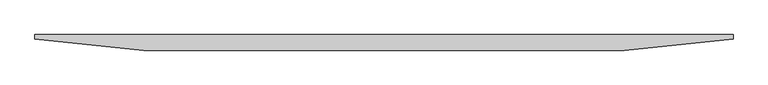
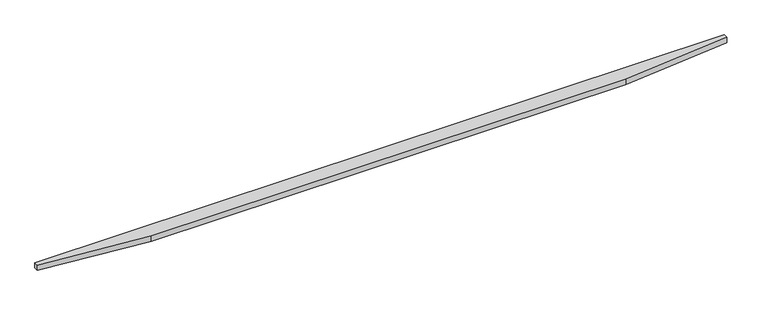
"""IFC4 building model written with IfcOpenShell, lengths in millimetres: proxy geometry, FOUNDATION^TABLE 5_60x180 BASE KEELS-KEEL 1."""

from ifc_helpers import new_model, si_unit, frame, origin, place, context, project, spatial, polyline, outline, extrude, source, transform, mapped, element, save


def generic_models_ef97d589(model_context):
    return source(origin(), model_context, "Body", "SweptSolid", [
        extrude(outline(polyline([(4267.2, -25.4), (3649.6706832, -88.9), (922.3293168, -88.9), (304.8, -25.4), (304.8, 0.0), (4267.2, 0.0), (4267.2, -25.4)])), frame((0.0, 0.0, -488.95), z_axis=(0.0, 0.0, 1.0), x_axis=(1.0, 0.0, 0.0)), (0.0, 0.0, 1.0), 31.75),
    ])


if __name__ == "__main__":
    model = new_model("IFC4")
    model_context = context("Model", 3, world=origin())
    ifc_project = project(units=[si_unit("LENGTHUNIT", "METRE", prefix="MILLI")], contexts=[model_context])
    site = spatial("IfcSite", under=ifc_project)
    building = spatial("IfcBuilding", under=site)
    placement = place(None, origin())
    generic_models_shape = generic_models_ef97d589(model_context)
    element("IfcBuildingElementProxy", 1, Name="FOUNDATION^TABLE 5_60x180 BASE KEELS-KEEL 1", ObjectType="FOUNDATION^TABLE 5_60x180 BASE KEELS-KEEL 1", at=placement, inside=building, context=model_context, shape_type="MappedRepresentation", body=[
        mapped(generic_models_shape, transform((0.0, 0.0, 0.0), x_axis=(1.0, 0.0, 0.0), y_axis=(0.0, 1.0, 0.0), z_axis=(0.0, 0.0, 1.0))),
    ])
    save(model, "model.ifc")
